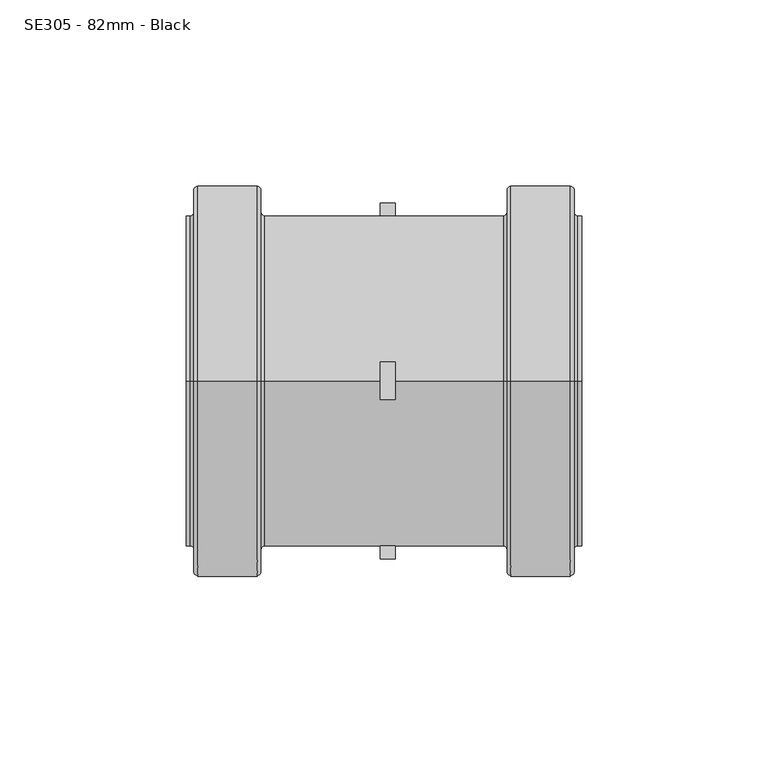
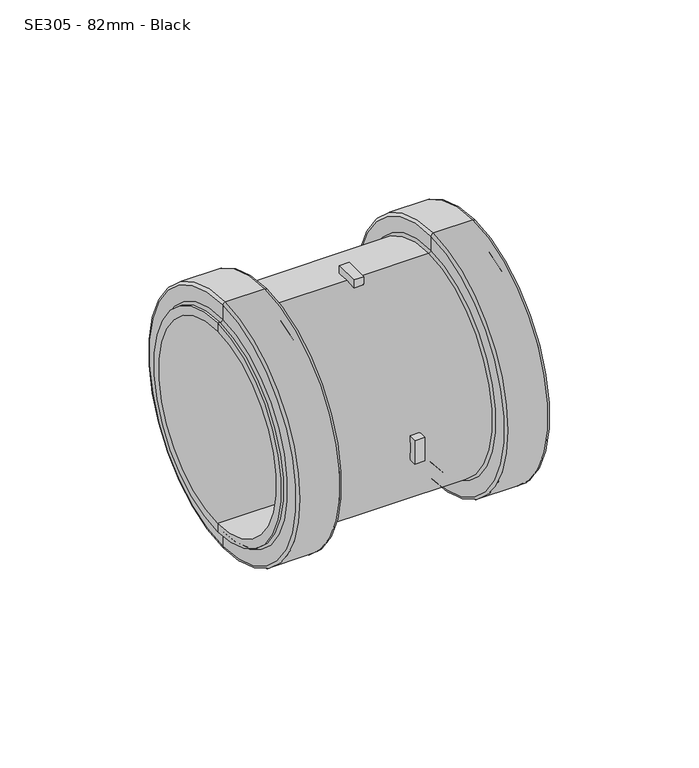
"""IFC4 building model written with IfcOpenShell, lengths in millimetres: pipe fitting geometry, MarleyPlumbingAndDrainage_PipeFitting_DoubleRingCoupling_SE305 : SE305 - 82mm - Black."""

from ifc_helpers import new_model, si_unit, point, frame, origin, place, context, project, spatial, polyline, circle_curve, ellipse_curve, trimmed, source, transform, mapped, element, save
from ifc_brep_helpers import plane_surface, cylinder_surface, revolved_surface, advanced_brep


def se305_82mm_black_1b1bb619(model_context):
    return source(origin(), model_context, "Body", "AdvancedBrep", [
        advanced_brep(
        [(-46.8253818, 0.0, -44.5), (-46.8253818, 0.0, 44.5), (-15.8253818, 0.0, 44.5), (-15.8253818, 5.0, 44.2182089), (-11.8253818, 5.0, 44.2182089), (-11.8253818, 0.0, 44.5), (17.1746182, 0.0, 44.5), (17.1746182, 0.0, -44.5), (-11.8253818, 0.0, -44.5), (-11.8253818, 5.0, -44.2182089), (-15.8253818, 5.0, -44.2182089), (-15.8253818, 0.0, -44.5), (-11.8253818, 44.2182089, -5.0), (-11.8253818, 44.2182089, 5.0), (-15.8253818, 44.2182089, 5.0), (-15.8253818, 44.2182089, -5.0), (-15.8253818, -5.0, -44.2182089), (-11.8253818, -5.0, -44.2182089), (-11.8253818, -5.0, 44.2182089), (-15.8253818, -5.0, 44.2182089), (-11.8253818, -44.2182089, 5.0), (-11.8253818, -44.2182089, -5.0), (-15.8253818, -44.2182089, -5.0), (-15.8253818, -44.2182089, 5.0), (38.1746182, 0.0, -41.0), (38.1746182, 0.0, 41.0), (-67.8253818, 0.0, 41.0), (-67.8253818, 0.0, -41.0), (38.1746182, 0.0, -44.5), (38.1746182, 0.0, 44.5), (37.1746182, 0.0, -44.5), (37.1746182, 0.0, 44.5), (36.1746182, 0.0, -45.5), (36.1746182, 0.0, 45.5), (36.1746182, 0.0, -51.5), (36.1746182, 0.0, 51.5), (35.1746182, 0.0, -52.5), (35.1746182, 0.0, 52.5), (19.1746182, 0.0, -52.5), (19.1746182, 0.0, 52.5), (18.1746182, 0.0, -51.5), (18.1746182, 0.0, 51.5), (18.1746182, 0.0, -45.5), (18.1746182, 0.0, 45.5), (-47.8253818, 0.0, -45.5), (-47.8253818, 0.0, 45.5), (-47.8253818, 0.0, -51.5), (-47.8253818, 0.0, 51.5), (-48.8253818, 0.0, -52.5), (-48.8253818, 0.0, 52.5), (-64.8253818, 0.0, -52.5), (-64.8253818, 0.0, 52.5), (-65.8253818, 0.0, -51.5), (-65.8253818, 0.0, 51.5), (-65.8253818, 0.0, -45.5), (-65.8253818, 0.0, 45.5), (-66.8253818, 0.0, -44.5), (-66.8253818, 0.0, 44.5), (-67.8253818, 0.0, -44.5), (-67.8253818, 0.0, 44.5), (-11.8253818, 5.0, 47.738873), (-11.8253818, -5.0, 47.738873), (-11.8253818, -47.738873, 5.0), (-11.8253818, -47.738873, -5.0), (-11.8253818, -5.0, -47.738873), (-11.8253818, 5.0, -47.738873), (-11.8253818, 47.738873, -5.0), (-11.8253818, 47.738873, 5.0), (-15.8253818, -5.0, 47.738873), (-15.8253818, 5.0, 47.738873), (-15.8253818, -47.738873, -5.0), (-15.8253818, -47.738873, 5.0), (-15.8253818, 5.0, -47.738873), (-15.8253818, -5.0, -47.738873), (-15.8253818, 47.738873, 5.0), (-15.8253818, 47.738873, -5.0)],
        [
            (0, 1, circle_curve(frame((-46.8253818, 0.0, 0.0), z_axis=(1.0, 0.0, 0.0), x_axis=(0.0, 0.0, 1.0)), 44.5)),
            (1, 2),
            (2, 3, circle_curve(frame((-15.8253818, 0.0, 0.0), z_axis=(-1.0, 0.0, 0.0), x_axis=(0.0, 0.0, 1.0)), 44.5)),
            (3, 4),
            (4, 5, circle_curve(frame((-11.8253818, 0.0, 0.0), z_axis=(1.0, 0.0, 0.0), x_axis=(0.0, 0.0, 1.0)), 44.5)),
            (5, 6),
            (6, 7, circle_curve(frame((17.1746182, 0.0, 0.0), z_axis=(-1.0, 0.0, 0.0), x_axis=(0.0, 0.0, 1.0)), 44.5)),
            (7, 8),
            (8, 9, circle_curve(frame((-11.8253818, 0.0, 0.0), z_axis=(1.0, 0.0, 0.0), x_axis=(0.0, 0.0, 1.0)), 44.5)),
            (9, 10),
            (10, 11, circle_curve(frame((-15.8253818, 0.0, 0.0), z_axis=(-1.0, 0.0, 0.0), x_axis=(0.0, 0.0, 1.0)), 44.5)),
            (11, 0),
            (12, 13, circle_curve(frame((-11.8253818, 0.0, 0.0), z_axis=(1.0, 0.0, 0.0), x_axis=(0.0, 0.0, 1.0)), 44.5)),
            (13, 14),
            (14, 15, circle_curve(frame((-15.8253818, 0.0, 0.0), z_axis=(-1.0, 0.0, 0.0), x_axis=(0.0, 0.0, 1.0)), 44.5)),
            (15, 12),
            (1, 0, circle_curve(frame((-46.8253818, 0.0, 0.0), z_axis=(1.0, 0.0, 0.0), x_axis=(0.0, 0.0, 1.0)), 44.5)),
            (11, 16, circle_curve(frame((-15.8253818, 0.0, 0.0), z_axis=(-1.0, 0.0, 0.0), x_axis=(0.0, 0.0, 1.0)), 44.5)),
            (16, 17),
            (17, 8, circle_curve(frame((-11.8253818, 0.0, 0.0), z_axis=(1.0, 0.0, 0.0), x_axis=(0.0, 0.0, 1.0)), 44.5)),
            (7, 6, circle_curve(frame((17.1746182, 0.0, 0.0), z_axis=(-1.0, 0.0, 0.0), x_axis=(0.0, 0.0, 1.0)), 44.5)),
            (5, 18, circle_curve(frame((-11.8253818, 0.0, 0.0), z_axis=(1.0, 0.0, 0.0), x_axis=(0.0, 0.0, 1.0)), 44.5)),
            (18, 19),
            (19, 2, circle_curve(frame((-15.8253818, 0.0, 0.0), z_axis=(-1.0, 0.0, 0.0), x_axis=(0.0, 0.0, 1.0)), 44.5)),
            (20, 21, circle_curve(frame((-11.8253818, 0.0, 0.0), z_axis=(1.0, 0.0, 0.0), x_axis=(0.0, 0.0, 1.0)), 44.5)),
            (21, 22),
            (22, 23, circle_curve(frame((-15.8253818, 0.0, 0.0), z_axis=(-1.0, 0.0, 0.0), x_axis=(0.0, 0.0, 1.0)), 44.5)),
            (23, 20),
            (24, 25, circle_curve(frame((38.1746182, 0.0, 0.0), z_axis=(1.0, 0.0, 0.0), x_axis=(0.0, 0.0, 1.0)), 41.0)),
            (25, 26),
            (26, 27, circle_curve(frame((-67.8253818, 0.0, 0.0), z_axis=(-1.0, 0.0, 0.0), x_axis=(0.0, 0.0, 1.0)), 41.0)),
            (27, 24),
            (25, 24, circle_curve(frame((38.1746182, 0.0, 0.0), z_axis=(1.0, 0.0, 0.0), x_axis=(0.0, 0.0, 1.0)), 41.0)),
            (27, 26, circle_curve(frame((-67.8253818, 0.0, 0.0), z_axis=(-1.0, 0.0, 0.0), x_axis=(0.0, 0.0, 1.0)), 41.0)),
            (24, 28),
            (28, 29, circle_curve(frame((38.1746182, 0.0, 0.0), z_axis=(1.0, 0.0, 0.0), x_axis=(0.0, 0.0, 1.0)), 44.5)),
            (29, 25),
            (29, 28, circle_curve(frame((38.1746182, 0.0, 0.0), z_axis=(1.0, 0.0, 0.0), x_axis=(0.0, 0.0, 1.0)), 44.5)),
            (28, 30),
            (30, 31, circle_curve(frame((37.1746182, 0.0, 0.0), z_axis=(1.0, 0.0, 0.0), x_axis=(0.0, 0.0, 1.0)), 44.5)),
            (31, 29),
            (31, 30, circle_curve(frame((37.1746182, 0.0, 0.0), z_axis=(1.0, 0.0, 0.0), x_axis=(0.0, 0.0, 1.0)), 44.5)),
            (30, 32, circle_curve(frame((37.1746182, 0.0, -45.5), z_axis=(0.0, -1.0, 0.0), x_axis=(1.0, 0.0, 0.0)), 1.0)),
            (32, 33, circle_curve(frame((36.1746182, 0.0, 0.0), z_axis=(1.0, 0.0, 0.0), x_axis=(0.0, 0.0, 1.0)), 45.5)),
            (33, 31, circle_curve(frame((37.1746182, 0.0, 45.5), z_axis=(0.0, -1.0, 0.0), x_axis=(1.0, 0.0, 0.0)), 1.0)),
            (33, 32, circle_curve(frame((36.1746182, 0.0, 0.0), z_axis=(1.0, 0.0, 0.0), x_axis=(0.0, 0.0, 1.0)), 45.5)),
            (32, 34),
            (34, 35, circle_curve(frame((36.1746182, 0.0, 0.0), z_axis=(1.0, 0.0, 0.0), x_axis=(0.0, 0.0, 1.0)), 51.5)),
            (35, 33),
            (35, 34, circle_curve(frame((36.1746182, 0.0, 0.0), z_axis=(1.0, 0.0, 0.0), x_axis=(0.0, 0.0, 1.0)), 51.5)),
            (34, 36, circle_curve(frame((35.1746182, 0.0, -51.5), z_axis=(0.0, 1.0, 0.0), x_axis=(1.0, 0.0, 0.0)), 1.0)),
            (36, 37, circle_curve(frame((35.1746182, 0.0, 0.0), z_axis=(1.0, 0.0, 0.0), x_axis=(0.0, 0.0, 1.0)), 52.5)),
            (37, 35, circle_curve(frame((35.1746182, 0.0, 51.5), z_axis=(0.0, 1.0, 0.0), x_axis=(1.0, 0.0, 0.0)), 1.0)),
            (37, 36, circle_curve(frame((35.1746182, 0.0, 0.0), z_axis=(1.0, 0.0, 0.0), x_axis=(0.0, 0.0, 1.0)), 52.5)),
            (36, 38),
            (38, 39, circle_curve(frame((19.1746182, 0.0, 0.0), z_axis=(1.0, 0.0, 0.0), x_axis=(0.0, 0.0, 1.0)), 52.5)),
            (39, 37),
            (39, 38, circle_curve(frame((19.1746182, 0.0, 0.0), z_axis=(1.0, 0.0, 0.0), x_axis=(0.0, 0.0, 1.0)), 52.5)),
            (38, 40, circle_curve(frame((19.1746182, 0.0, -51.5), z_axis=(0.0, 1.0, 0.0), x_axis=(1.0, 0.0, 0.0)), 1.0)),
            (40, 41, circle_curve(frame((18.1746182, 0.0, 0.0), z_axis=(1.0, 0.0, 0.0), x_axis=(0.0, 0.0, 1.0)), 51.5)),
            (41, 39, circle_curve(frame((19.1746182, 0.0, 51.5), z_axis=(0.0, 1.0, 0.0), x_axis=(1.0, 0.0, 0.0)), 1.0)),
            (41, 40, circle_curve(frame((18.1746182, 0.0, 0.0), z_axis=(1.0, 0.0, 0.0), x_axis=(0.0, 0.0, 1.0)), 51.5)),
            (40, 42),
            (42, 43, circle_curve(frame((18.1746182, 0.0, 0.0), z_axis=(1.0, 0.0, 0.0), x_axis=(0.0, 0.0, 1.0)), 45.5)),
            (43, 41),
            (43, 42, circle_curve(frame((18.1746182, 0.0, 0.0), z_axis=(1.0, 0.0, 0.0), x_axis=(0.0, 0.0, 1.0)), 45.5)),
            (6, 43, circle_curve(frame((17.1746182, 0.0, 45.5), z_axis=(0.0, -1.0, 0.0), x_axis=(1.0, 0.0, 0.0)), 1.0)),
            (42, 7, circle_curve(frame((17.1746182, 0.0, -45.5), z_axis=(0.0, -1.0, 0.0), x_axis=(1.0, 0.0, 0.0)), 1.0)),
            (0, 44, circle_curve(frame((-46.8253818, 0.0, -45.5), z_axis=(0.0, -1.0, 0.0), x_axis=(1.0, 0.0, 0.0)), 1.0)),
            (44, 45, circle_curve(frame((-47.8253818, 0.0, 0.0), z_axis=(1.0, 0.0, 0.0), x_axis=(0.0, 0.0, 1.0)), 45.5)),
            (45, 1, circle_curve(frame((-46.8253818, 0.0, 45.5), z_axis=(0.0, -1.0, 0.0), x_axis=(1.0, 0.0, 0.0)), 1.0)),
            (45, 44, circle_curve(frame((-47.8253818, 0.0, 0.0), z_axis=(1.0, 0.0, 0.0), x_axis=(0.0, 0.0, 1.0)), 45.5)),
            (44, 46),
            (46, 47, circle_curve(frame((-47.8253818, 0.0, 0.0), z_axis=(1.0, 0.0, 0.0), x_axis=(0.0, 0.0, 1.0)), 51.5)),
            (47, 45),
            (47, 46, circle_curve(frame((-47.8253818, 0.0, 0.0), z_axis=(1.0, 0.0, 0.0), x_axis=(0.0, 0.0, 1.0)), 51.5)),
            (46, 48, circle_curve(frame((-48.8253818, 0.0, -51.5), z_axis=(0.0, 1.0, 0.0), x_axis=(1.0, 0.0, 0.0)), 1.0)),
            (48, 49, circle_curve(frame((-48.8253818, 0.0, 0.0), z_axis=(1.0, 0.0, 0.0), x_axis=(0.0, 0.0, 1.0)), 52.5)),
            (49, 47, circle_curve(frame((-48.8253818, 0.0, 51.5), z_axis=(0.0, 1.0, 0.0), x_axis=(1.0, 0.0, 0.0)), 1.0)),
            (49, 48, circle_curve(frame((-48.8253818, 0.0, 0.0), z_axis=(1.0, 0.0, 0.0), x_axis=(0.0, 0.0, 1.0)), 52.5)),
            (48, 50),
            (50, 51, circle_curve(frame((-64.8253818, 0.0, 0.0), z_axis=(1.0, 0.0, 0.0), x_axis=(0.0, 0.0, 1.0)), 52.5)),
            (51, 49),
            (51, 50, circle_curve(frame((-64.8253818, 0.0, 0.0), z_axis=(1.0, 0.0, 0.0), x_axis=(0.0, 0.0, 1.0)), 52.5)),
            (50, 52, circle_curve(frame((-64.8253818, 0.0, -51.5), z_axis=(0.0, 1.0, 0.0), x_axis=(1.0, 0.0, 0.0)), 1.0)),
            (52, 53, circle_curve(frame((-65.8253818, 0.0, 0.0), z_axis=(1.0, 0.0, 0.0), x_axis=(0.0, 0.0, 1.0)), 51.5)),
            (53, 51, circle_curve(frame((-64.8253818, 0.0, 51.5), z_axis=(0.0, 1.0, 0.0), x_axis=(1.0, 0.0, 0.0)), 1.0)),
            (53, 52, circle_curve(frame((-65.8253818, 0.0, 0.0), z_axis=(1.0, 0.0, 0.0), x_axis=(0.0, 0.0, 1.0)), 51.5)),
            (52, 54),
            (54, 55, circle_curve(frame((-65.8253818, 0.0, 0.0), z_axis=(1.0, 0.0, 0.0), x_axis=(0.0, 0.0, 1.0)), 45.5)),
            (55, 53),
            (55, 54, circle_curve(frame((-65.8253818, 0.0, 0.0), z_axis=(1.0, 0.0, 0.0), x_axis=(0.0, 0.0, 1.0)), 45.5)),
            (54, 56, circle_curve(frame((-66.8253818, 0.0, -45.5), z_axis=(0.0, -1.0, 0.0), x_axis=(1.0, 0.0, 0.0)), 1.0)),
            (56, 57, circle_curve(frame((-66.8253818, 0.0, 0.0), z_axis=(1.0, 0.0, 0.0), x_axis=(0.0, 0.0, 1.0)), 44.5)),
            (57, 55, circle_curve(frame((-66.8253818, 0.0, 45.5), z_axis=(0.0, -1.0, 0.0), x_axis=(1.0, 0.0, 0.0)), 1.0)),
            (57, 56, circle_curve(frame((-66.8253818, 0.0, 0.0), z_axis=(1.0, 0.0, 0.0), x_axis=(0.0, 0.0, 1.0)), 44.5)),
            (56, 58),
            (58, 59, circle_curve(frame((-67.8253818, 0.0, 0.0), z_axis=(1.0, 0.0, 0.0), x_axis=(0.0, 0.0, 1.0)), 44.5)),
            (59, 57),
            (59, 58, circle_curve(frame((-67.8253818, 0.0, 0.0), z_axis=(1.0, 0.0, 0.0), x_axis=(0.0, 0.0, 1.0)), 44.5)),
            (26, 59),
            (58, 27),
            (4, 60),
            (60, 61, circle_curve(frame((-11.8253818, 0.0, 0.0), z_axis=(1.0, 0.0, 0.0), x_axis=(0.0, 1.0, 0.0)), 48.0)),
            (61, 18),
            (20, 62),
            (62, 63, circle_curve(frame((-11.8253818, 0.0, 0.0), z_axis=(1.0, 0.0, 0.0), x_axis=(0.0, 1.0, 0.0)), 48.0)),
            (63, 21),
            (17, 64),
            (64, 65, circle_curve(frame((-11.8253818, 0.0, 0.0), z_axis=(1.0, 0.0, 0.0), x_axis=(0.0, 1.0, 0.0)), 48.0)),
            (65, 9),
            (12, 66),
            (66, 67, circle_curve(frame((-11.8253818, 0.0, 0.0), z_axis=(1.0, 0.0, 0.0), x_axis=(0.0, 1.0, 0.0)), 48.0)),
            (67, 13),
            (19, 68),
            (68, 69, circle_curve(frame((-15.8253818, 0.0, 0.0), z_axis=(-1.0, 0.0, 0.0), x_axis=(0.0, 1.0, 0.0)), 48.0)),
            (69, 3),
            (22, 70),
            (70, 71, circle_curve(frame((-15.8253818, 0.0, 0.0), z_axis=(-1.0, 0.0, 0.0), x_axis=(0.0, 1.0, 0.0)), 48.0)),
            (71, 23),
            (10, 72),
            (72, 73, circle_curve(frame((-15.8253818, 0.0, 0.0), z_axis=(-1.0, 0.0, 0.0), x_axis=(0.0, 1.0, 0.0)), 48.0)),
            (73, 16),
            (14, 74),
            (74, 75, circle_curve(frame((-15.8253818, 0.0, 0.0), z_axis=(-1.0, 0.0, 0.0), x_axis=(0.0, 1.0, 0.0)), 48.0)),
            (75, 15),
            (69, 60),
            (68, 61),
            (71, 62),
            (70, 63),
            (73, 64),
            (72, 65),
            (75, 66),
            (74, 67),
        ],
        [
            cylinder_surface(frame((-1205.7325039, 0.0, 0.0), z_axis=(-1.0, 0.0, 0.0), x_axis=(0.0, 0.0, 1.0)), 44.5),
            revolved_surface(polyline([(-67.82538180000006, 0.0, 41.0), (38.17461819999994, 0.0, 41.0)]), (-1205.7325039, 0.0, 0.0), (-1.0, 0.0, 0.0)),
            plane_surface(frame((38.1746182, 0.0, 0.0), z_axis=(1.0, 0.0, 0.0), x_axis=(0.0, 0.0, 1.0))),
            revolved_surface(trimmed(ellipse_curve(frame((37.1746182, 0.0, 45.5), z_axis=(0.0, 1.0, 0.0), x_axis=(1.0, 0.0, 0.0)), 1.0, 1.0), [point((37.1746182, 0.0, 44.5))], [point((36.1746182, 0.0, 45.5))], True, "CARTESIAN"), (-1205.7325039, 0.0, 0.0), (-1.0, 0.0, 0.0)),
            plane_surface(frame((36.1746182, 0.0, 0.0), z_axis=(1.0, 0.0, 0.0), x_axis=(0.0, 0.0, 1.0))),
            revolved_surface(trimmed(ellipse_curve(frame((35.1746182, 0.0, 51.5), z_axis=(0.0, -1.0, 0.0), x_axis=(1.0, 0.0, 0.0)), 1.0, 1.0), [point((36.1746182, 0.0, 51.5))], [point((35.1746182, 0.0, 52.5))], True, "CARTESIAN"), (-1205.7325039, 0.0, 0.0), (-1.0, 0.0, 0.0)),
            cylinder_surface(frame((-1205.7325039, 0.0, 0.0), z_axis=(-1.0, 0.0, 0.0), x_axis=(0.0, 0.0, 1.0)), 52.5),
            revolved_surface(trimmed(ellipse_curve(frame((19.1746182, 0.0, 51.5), z_axis=(0.0, -1.0, 0.0), x_axis=(1.0, 0.0, 0.0)), 1.0, 1.0), [point((19.1746182, 0.0, 52.5))], [point((18.1746182, 0.0, 51.5))], True, "CARTESIAN"), (-1205.7325039, 0.0, 0.0), (-1.0, 0.0, 0.0)),
            plane_surface(frame((18.1746182, 0.0, 0.0), z_axis=(-1.0, 0.0, 0.0), x_axis=(0.0, 0.0, 1.0))),
            revolved_surface(trimmed(ellipse_curve(frame((17.1746182, 0.0, 45.5), z_axis=(0.0, 1.0, 0.0), x_axis=(1.0, 0.0, 0.0)), 1.0, 1.0), [point((18.1746182, 0.0, 45.5))], [point((17.1746182, 0.0, 44.5))], True, "CARTESIAN"), (-1205.7325039, 0.0, 0.0), (-1.0, 0.0, 0.0)),
            revolved_surface(trimmed(ellipse_curve(frame((-46.8253818, 0.0, 45.5), z_axis=(0.0, 1.0, 0.0), x_axis=(1.0, 0.0, 0.0)), 1.0, 1.0), [point((-46.8253818, 0.0, 44.5))], [point((-47.8253818, 0.0, 45.5))], True, "CARTESIAN"), (-1205.7325039, 0.0, 0.0), (-1.0, 0.0, 0.0)),
            plane_surface(frame((-47.8253818, 0.0, 0.0), z_axis=(1.0, 0.0, 0.0), x_axis=(0.0, 0.0, 1.0))),
            revolved_surface(trimmed(ellipse_curve(frame((-48.8253818, 0.0, 51.5), z_axis=(0.0, -1.0, 0.0), x_axis=(1.0, 0.0, 0.0)), 1.0, 1.0), [point((-47.8253818, 0.0, 51.5))], [point((-48.8253818, 0.0, 52.5))], True, "CARTESIAN"), (-1205.7325039, 0.0, 0.0), (-1.0, 0.0, 0.0)),
            revolved_surface(trimmed(ellipse_curve(frame((-64.8253818, 0.0, 51.5), z_axis=(0.0, -1.0, 0.0), x_axis=(1.0, 0.0, 0.0)), 1.0, 1.0), [point((-64.8253818, 0.0, 52.5))], [point((-65.8253818, 0.0, 51.5))], True, "CARTESIAN"), (-1205.7325039, 0.0, 0.0), (-1.0, 0.0, 0.0)),
            plane_surface(frame((-65.8253818, 0.0, 0.0), z_axis=(-1.0, 0.0, 0.0), x_axis=(0.0, 0.0, 1.0))),
            revolved_surface(trimmed(ellipse_curve(frame((-66.8253818, 0.0, 45.5), z_axis=(0.0, 1.0, 0.0), x_axis=(1.0, 0.0, 0.0)), 1.0, 1.0), [point((-65.8253818, 0.0, 45.5))], [point((-66.8253818, 0.0, 44.5))], True, "CARTESIAN"), (-1205.7325039, 0.0, 0.0), (-1.0, 0.0, 0.0)),
            plane_surface(frame((-67.8253818, 0.0, 0.0), z_axis=(-1.0, 0.0, 0.0), x_axis=(0.0, 0.0, 1.0))),
            plane_surface(frame((-11.8253818, 44.5, 0.0), z_axis=(1.0, 0.0, 0.0), x_axis=(0.0, 0.0, -1.0))),
            plane_surface(frame((-15.8253818, 44.5, 0.0), z_axis=(-1.0, 0.0, 0.0), x_axis=(0.0, 0.0, 1.0))),
            plane_surface(frame((-11.8253818, 5.0, 44.2182089), z_axis=(0.0, 1.0, 0.0), x_axis=(-1.0, 0.0, 0.0))),
            cylinder_surface(frame((-15.8253818, 0.0, 0.0), z_axis=(1.0, 0.0, 0.0), x_axis=(0.0, 1.0, 0.0)), 48.0),
            plane_surface(frame((-11.8253818, -5.0, 47.738873), z_axis=(0.0, -1.0, 0.0), x_axis=(-1.0, 0.0, 0.0))),
            plane_surface(frame((-11.8253818, -44.2182089, 5.0), z_axis=(0.0, 0.0, 1.0), x_axis=(-1.0, 0.0, 0.0))),
            cylinder_surface(frame((-14.8253818, 0.0, 0.0), z_axis=(1.0, 0.0, 0.0), x_axis=(0.0, 1.0, 0.0)), 48.0),
            plane_surface(frame((-11.8253818, -47.738873, -5.0), z_axis=(0.0, 0.0, -1.0), x_axis=(-1.0, 0.0, 0.0))),
            plane_surface(frame((-11.8253818, -5.0, -44.2182089), z_axis=(0.0, -1.0, 0.0), x_axis=(-1.0, 0.0, 0.0))),
            plane_surface(frame((-11.8253818, 5.0, -47.738873), z_axis=(0.0, 1.0, 0.0), x_axis=(-1.0, 0.0, 0.0))),
            plane_surface(frame((-11.8253818, 44.2182089, -5.0), z_axis=(0.0, 0.0, -1.0), x_axis=(-1.0, 0.0, 0.0))),
            plane_surface(frame((-11.8253818, 47.738873, 5.0), z_axis=(0.0, 0.0, 1.0), x_axis=(-1.0, 0.0, 0.0))),
        ],
        [
            (0, [[1, 2, 3, 4, 5, 6, 7, 8, 9, 10, 11, 12], [13, 14, 15, 16]]),
            (0, [[17, -12, 18, 19, 20, -8, 21, -6, 22, 23, 24, -2], [25, 26, 27, 28]]),
            (1, [[29, 30, 31, 32]]),
            (1, [[-30, 33, -32, 34]]),
            (2, [[-29, 35, 36, 37]]),
            (2, [[-33, -37, 38, -35]]),
            (0, [[-36, 39, 40, 41]]),
            (0, [[-38, -41, 42, -39]]),
            (3, [[-40, 43, 44, 45]]),
            (3, [[-42, -45, 46, -43]]),
            (4, [[-44, 47, 48, 49]]),
            (4, [[-46, -49, 50, -47]]),
            (5, [[-48, 51, 52, 53]]),
            (5, [[-50, -53, 54, -51]]),
            (6, [[-52, 55, 56, 57]]),
            (6, [[-54, -57, 58, -55]]),
            (7, [[-56, 59, 60, 61]]),
            (7, [[-58, -61, 62, -59]]),
            (8, [[-60, 63, 64, 65]]),
            (8, [[-62, -65, 66, -63]]),
            (9, [[-7, 67, -64, 68]]),
            (9, [[-21, -68, -66, -67]]),
            (10, [[-1, 69, 70, 71]]),
            (10, [[-17, -71, 72, -69]]),
            (11, [[-70, 73, 74, 75]]),
            (11, [[-72, -75, 76, -73]]),
            (12, [[-74, 77, 78, 79]]),
            (12, [[-76, -79, 80, -77]]),
            (6, [[-78, 81, 82, 83]]),
            (6, [[-80, -83, 84, -81]]),
            (13, [[-82, 85, 86, 87]]),
            (13, [[-84, -87, 88, -85]]),
            (14, [[-86, 89, 90, 91]]),
            (14, [[-88, -91, 92, -89]]),
            (15, [[-90, 93, 94, 95]]),
            (15, [[-92, -95, 96, -93]]),
            (0, [[-94, 97, 98, 99]]),
            (0, [[-96, -99, 100, -97]]),
            (16, [[-31, 101, -98, 102]]),
            (16, [[-34, -102, -100, -101]]),
            (17, [[103, 104, 105, -22, -5]]),
            (17, [[106, 107, 108, -25]]),
            (17, [[109, 110, 111, -9, -20]]),
            (17, [[112, 113, 114, -13]]),
            (18, [[115, 116, 117, -3, -24]]),
            (18, [[118, 119, 120, -27]]),
            (18, [[121, 122, 123, -18, -11]]),
            (18, [[124, 125, 126, -15]]),
            (19, [[-103, -4, -117, 127]]),
            (20, [[-104, -127, -116, 128]]),
            (21, [[-105, -128, -115, -23]]),
            (22, [[-106, -28, -120, 129]]),
            (23, [[-107, -129, -119, 130]]),
            (24, [[-108, -130, -118, -26]]),
            (25, [[-109, -19, -123, 131]]),
            (23, [[-110, -131, -122, 132]]),
            (26, [[-111, -132, -121, -10]]),
            (27, [[-112, -16, -126, 133]]),
            (23, [[-113, -133, -125, 134]]),
            (28, [[-114, -134, -124, -14]]),
        ],
    ),
    ])


if __name__ == "__main__":
    model = new_model("IFC4")
    model_context = context("Model", 3, world=origin())
    ifc_project = project(units=[si_unit("LENGTHUNIT", "METRE", prefix="MILLI")], contexts=[model_context])
    site = spatial("IfcSite", under=ifc_project)
    building = spatial("IfcBuilding", under=site)
    placement = place(None, origin())
    se305_82mm_black_shape = se305_82mm_black_1b1bb619(model_context)
    element("IfcPipeFitting", 1, ObjectType="MarleyPlumbingAndDrainage_PipeFitting_DoubleRingCoupling_SE305 : SE305 - 82mm - Black", at=placement, inside=building, context=model_context, shape_type="MappedRepresentation", body=[
        mapped(se305_82mm_black_shape, transform((0.0, 0.0, 0.0), x_axis=(1.0, 0.0, 0.0), y_axis=(0.0, 1.0, 0.0), z_axis=(0.0, 0.0, 1.0))),
    ])
    save(model, "model.ifc")
